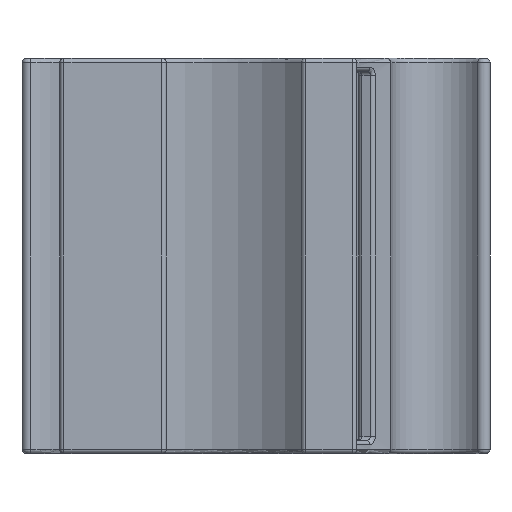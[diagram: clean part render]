
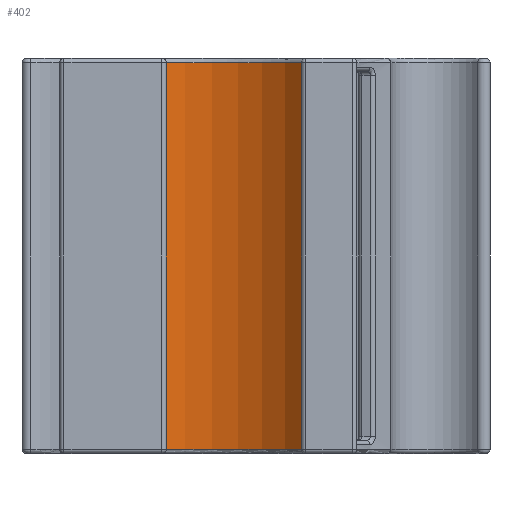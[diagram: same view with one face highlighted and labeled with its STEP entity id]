
A CAD part, front view. The second image highlights one B-rep face of the part: STEP entity #402.
In plain terms, the highlighted cylindrical face has radius 35.431 mm (diameter 70.863 mm), a partial arc.
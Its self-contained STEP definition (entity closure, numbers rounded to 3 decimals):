
#219 = CIRCLE ( 'NONE', #2363, 35.431 ) ;
#402 = ADVANCED_FACE ( 'NONE', ( #1117 ), #1559, .F. ) ;
#575 = VERTEX_POINT ( 'NONE', #2711 ) ;
#580 = VECTOR ( 'NONE', #3747, 1000. ) ;
#631 = DIRECTION ( 'NONE',  ( 0., 0., 1. ) ) ;
#950 = EDGE_CURVE ( 'NONE', #2316, #5485, #3634, .T. ) ;
#951 = DIRECTION ( 'NONE',  ( 0., 0., -1. ) ) ;
#1066 = DIRECTION ( 'NONE',  ( 1., 0., 0. ) ) ;
#1107 = ORIENTED_EDGE ( 'NONE', *, *, #1457, .T. ) ;
#1117 = FACE_OUTER_BOUND ( 'NONE', #1489, .T. ) ;
#1182 = ORIENTED_EDGE ( 'NONE', *, *, #2147, .T. ) ;
#1437 = AXIS2_PLACEMENT_3D ( 'NONE', #4563, #631, #1066 ) ;
#1457 = EDGE_CURVE ( 'NONE', #575, #1770, #3825, .T. ) ;
#1489 = EDGE_LOOP ( 'NONE', ( #1107, #1182, #3047, #2287 ) ) ;
#1559 = CYLINDRICAL_SURFACE ( 'NONE', #2526, 35.431 ) ;
#1770 = VERTEX_POINT ( 'NONE', #4735 ) ;
#2147 = EDGE_CURVE ( 'NONE', #1770, #5485, #219, .T. ) ;
#2194 = CARTESIAN_POINT ( 'NONE',  ( 20.829, -11.777, 1. ) ) ;
#2287 = ORIENTED_EDGE ( 'NONE', *, *, #2780, .T. ) ;
#2316 = VERTEX_POINT ( 'NONE', #3714 ) ;
#2363 = AXIS2_PLACEMENT_3D ( 'NONE', #5767, #951, #2677 ) ;
#2526 = AXIS2_PLACEMENT_3D ( 'NONE', #2567, #3800, #4819 ) ;
#2567 = CARTESIAN_POINT ( 'NONE',  ( -9.643, -29.856, 90. ) ) ;
#2677 = DIRECTION ( 'NONE',  ( 1., 0., 0. ) ) ;
#2711 = CARTESIAN_POINT ( 'NONE',  ( -16., 5., 89. ) ) ;
#2780 = EDGE_CURVE ( 'NONE', #2316, #575, #3571, .T. ) ;
#3047 = ORIENTED_EDGE ( 'NONE', *, *, #950, .F. ) ;
#3571 = CIRCLE ( 'NONE', #1437, 35.431 ) ;
#3634 = LINE ( 'NONE', #5020, #580 ) ;
#3714 = CARTESIAN_POINT ( 'NONE',  ( 20.829, -11.777, 89. ) ) ;
#3747 = DIRECTION ( 'NONE',  ( 0., 0., -1. ) ) ;
#3800 = DIRECTION ( 'NONE',  ( 0., 0., -1. ) ) ;
#3825 = LINE ( 'NONE', #3856, #5431 ) ;
#3856 = CARTESIAN_POINT ( 'NONE',  ( -16., 5., 90. ) ) ;
#4563 = CARTESIAN_POINT ( 'NONE',  ( -9.643, -29.856, 89. ) ) ;
#4679 = DIRECTION ( 'NONE',  ( 0., 0., -1. ) ) ;
#4735 = CARTESIAN_POINT ( 'NONE',  ( -16., 5., 1. ) ) ;
#4819 = DIRECTION ( 'NONE',  ( -1., 0., 0. ) ) ;
#5020 = CARTESIAN_POINT ( 'NONE',  ( 20.829, -11.777, 90. ) ) ;
#5431 = VECTOR ( 'NONE', #4679, 1000. ) ;
#5485 = VERTEX_POINT ( 'NONE', #2194 ) ;
#5767 = CARTESIAN_POINT ( 'NONE',  ( -9.643, -29.856, 1. ) ) ;
